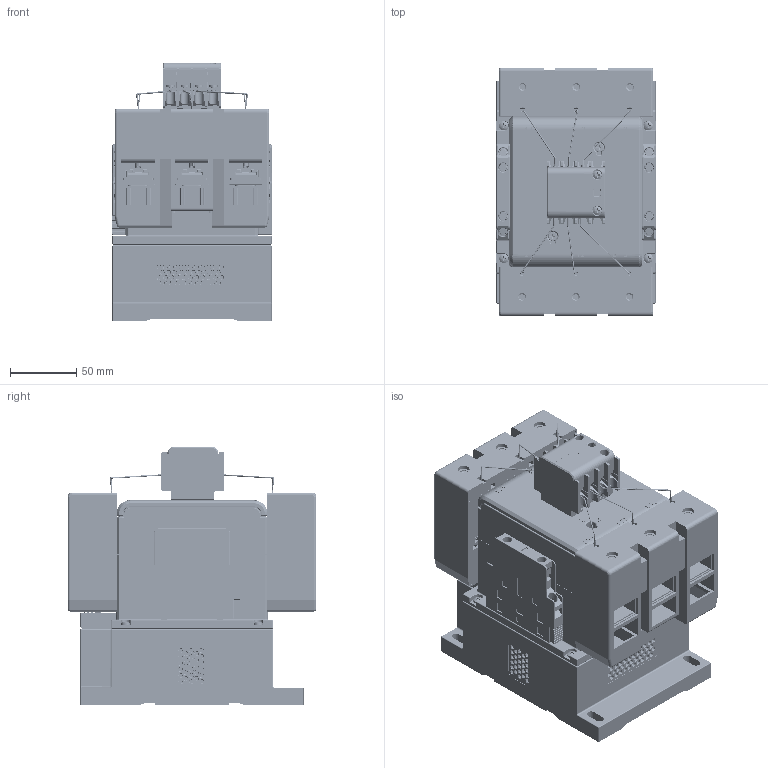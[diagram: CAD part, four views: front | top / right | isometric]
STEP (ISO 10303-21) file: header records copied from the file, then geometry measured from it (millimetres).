
FILE_DESCRIPTION((''),'2;1');
FILE_NAME('CDC19S-150-170','2020-11-06T',('yunfei.yang'),(''),'PRO/ENGINEER BY PARAMETRIC TECHNOLOGY CORPORATION, 2015440','PRO/ENGINEER BY PARAMETRIC TECHNOLOGY CORPORATION, 2015440','');
FILE_SCHEMA(('CONFIG_CONTROL_DESIGN'));
Products named in the file (1): CDC19S-150-170
Bounding box: 120 x 187.6 x 195.3 mm (x, y, z)
Volume: 2486547.5 mm3; surface area: 470346.9 mm2
Topology: 1 solids, 10 shells, 33754 faces, 91260 edges, 59383 vertices
Faces by surface type: plane 20536, cylinder 11126, cone 627, torus 463, bspline 442, extrusion 347, sphere 213
Entity records: 1116546 total; most frequent: CARTESIAN_POINT 252839, ORIENTED_EDGE 182502, DIRECTION 177801, EDGE_CURVE 91251, VECTOR 64221, LINE 63874, VERTEX_POINT 59383, AXIS2_PLACEMENT_3D 56790
